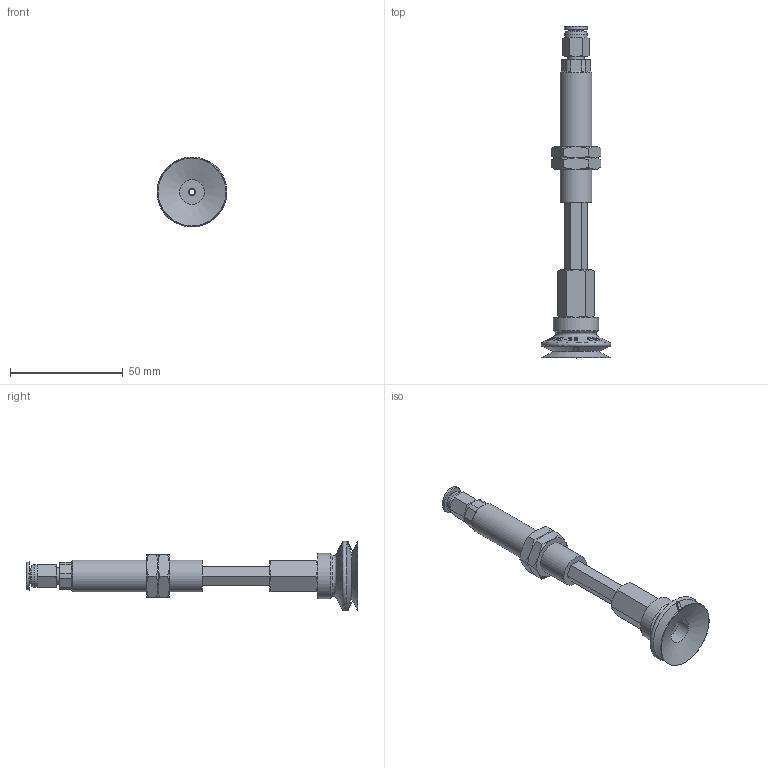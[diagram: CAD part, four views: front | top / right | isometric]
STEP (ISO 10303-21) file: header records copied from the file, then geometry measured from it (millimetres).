
FILE_DESCRIPTION(('STEP AP214'),'1');
FILE_NAME('-O.stp','2026-01-21T06:57:12',(' '),(' '),'Spatial InterOp 3D',' ',' ');
FILE_SCHEMA(('AUTOMOTIVE_DESIGN { 1 0 10303 214 1 1 1 1 }'));
Length unit declared in the file: millimetre
Products named in the file (8): BNABPJTH-30-30-※-O; PC-C_06-M5; ADAPTER; NAPJTH-30-30-MBODY; BPJG-30-※; Adapter-30-NAPJ; NAPJH-30-30-NUT; NAPJTH-30-30-FBODY
Assembly tree (8 placements, depth 2):
  BNABPJTH-30-30-※-O
    PC-C_06-M5
    ADAPTER
    NAPJTH-30-30-MBODY
    BPJG-30-※
    Adapter-30-NAPJ
    NAPJH-30-30-NUT  x2
    NAPJTH-30-30-FBODY
Bounding box: 30.99 x 146.98 x 30.99 mm (x, y, z)
Volume: 21808.8 mm3; surface area: 16909.7 mm2
Topology: 7 solids, 10 shells, 831 faces, 2273 edges, 1488 vertices
Faces by surface type: plane 696, cone 83, cylinder 36, torus 9, bspline 4, revolution 3
Full cylindrical faces by diameter (mm): 3 x3, 4 x2, 4.134 x1, 4.917 x1, 5 x1, 5.8 x1, 6 x1, 7 x1, 7.4 x1, 8.2 x1, 10 x1, 10.8 x1, 11 x1, 13.188 x2, 14 x1, 20 x1
Entity records: 33148 total; most frequent: CARTESIAN_POINT 8291, ORIENTED_EDGE 4350, DIRECTION 2820, EDGE_CURVE 2177, VERTEX_POINT 1454, B_SPLINE_CURVE_WITH_KNOTS 1093, AXIS2_PLACEMENT_3D 945, LINE 927
